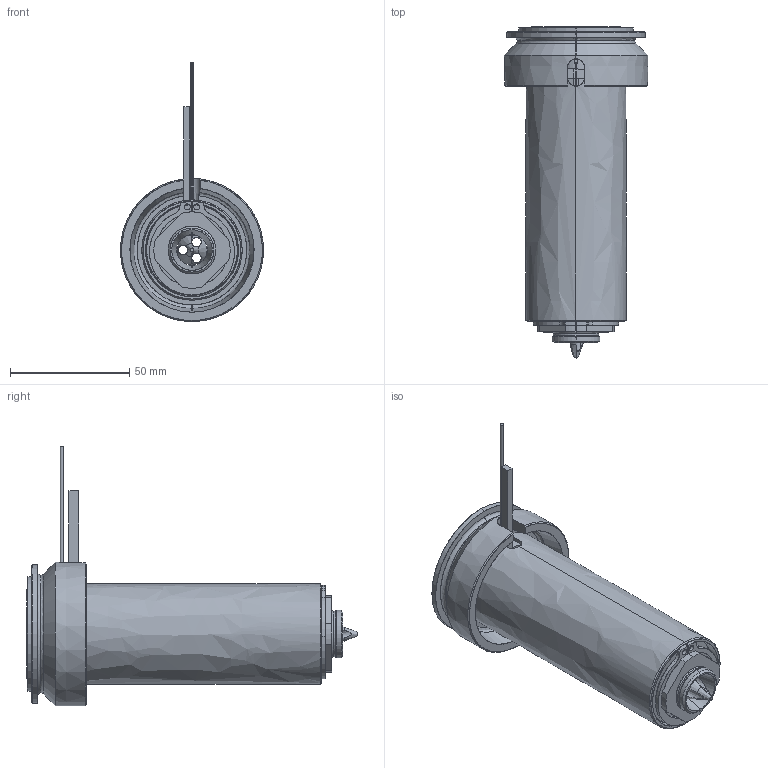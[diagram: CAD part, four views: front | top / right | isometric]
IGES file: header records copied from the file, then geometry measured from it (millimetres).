
Start section: SolidWorks IGES file using analytic representation for surfaces
Global section: file name: C:\Documents and Settings\ws-20\Desktop\TEM\UGEP6005-M-A-1 [Øf-1.6 ØC-15].IGS; native system: SolidWorks 2012; preprocessor: SolidWorks 2012; author: ws-20; date: 120427.092843; units: millimetre
Bounding box: 60 x 139.05 x 108.65 mm (x, y, z)
Surface area: 66986.8 mm2 (no closed solid volume)
Topology: 0 solids, 0 shells, 128 faces, 2298 edges, 2298 vertices
Faces by surface type: revolution 81, bspline 47
